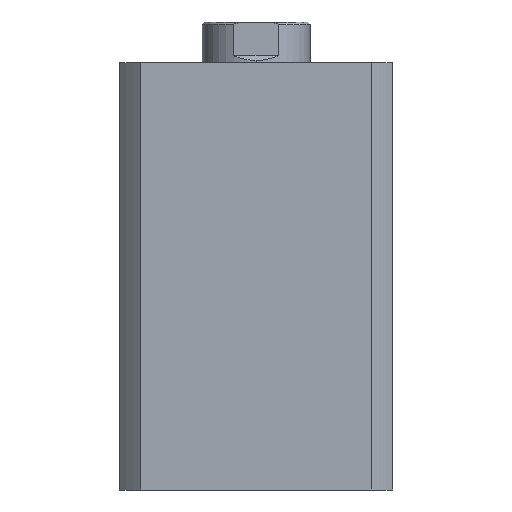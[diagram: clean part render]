
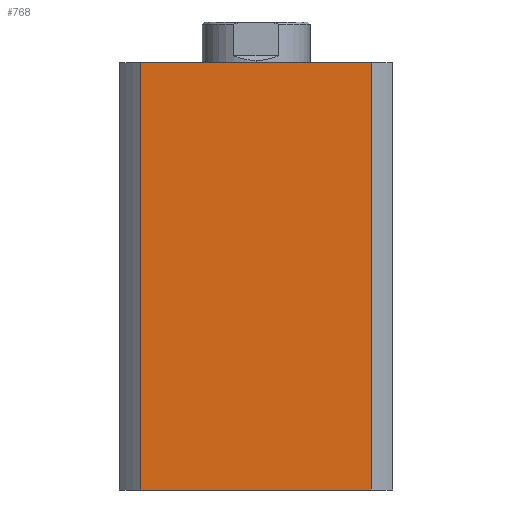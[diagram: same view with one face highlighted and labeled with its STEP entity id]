
A CAD part, left-side view. The second image highlights one B-rep face of the part: STEP entity #768.
In plain terms, the highlighted planar face has unit normal (-1, 0, 0).
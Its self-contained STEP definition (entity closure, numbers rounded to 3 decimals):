
#180 = ORIENTED_EDGE ( 'NONE', *, *, #1105, .T. ) ;
#182 = ORIENTED_EDGE ( 'NONE', *, *, #1095, .F. ) ;
#186 = ORIENTED_EDGE ( 'NONE', *, *, #1092, .T. ) ;
#188 = ORIENTED_EDGE ( 'NONE', *, *, #1097, .F. ) ;
#312 = EDGE_LOOP ( 'NONE', ( #180, #182, #188, #186 ) ) ;
#385 = VERTEX_POINT ( 'NONE', #3578 ) ;
#415 = VERTEX_POINT ( 'NONE', #3544 ) ;
#768 = ADVANCED_FACE ( 'NONE', ( #4925 ), #2836, .F. ) ;
#906 = AXIS2_PLACEMENT_3D ( 'NONE', #2855, #2764, #2763 ) ;
#1092 = EDGE_CURVE ( 'NONE', #4769, #4761, #1228, .T. ) ;
#1095 = EDGE_CURVE ( 'NONE', #385, #415, #1233, .T. ) ;
#1097 = EDGE_CURVE ( 'NONE', #4769, #385, #1237, .T. ) ;
#1105 = EDGE_CURVE ( 'NONE', #4761, #415, #1252, .T. ) ;
#1228 = LINE ( 'NONE', #5033, #1231 ) ;
#1231 = VECTOR ( 'NONE', #5030, 1000. ) ;
#1233 = LINE ( 'NONE', #1856, #1236 ) ;
#1236 = VECTOR ( 'NONE', #1855, 1000. ) ;
#1237 = LINE ( 'NONE', #1852, #1240 ) ;
#1240 = VECTOR ( 'NONE', #1851, 1000. ) ;
#1252 = LINE ( 'NONE', #1848, #1254 ) ;
#1254 = VECTOR ( 'NONE', #1847, 1000. ) ;
#1628 = CARTESIAN_POINT ( 'NONE',  ( -57., 47.971, 178. ) ) ;
#1638 = CARTESIAN_POINT ( 'NONE',  ( -57., 47.971, 0. ) ) ;
#1847 = DIRECTION ( 'NONE',  ( 0., -1., 0. ) ) ;
#1848 = CARTESIAN_POINT ( 'NONE',  ( -57., 0., 0. ) ) ;
#1851 = DIRECTION ( 'NONE',  ( 0., -1., 0. ) ) ;
#1852 = CARTESIAN_POINT ( 'NONE',  ( -57., 0., 178. ) ) ;
#1855 = DIRECTION ( 'NONE',  ( 0., 0., -1. ) ) ;
#1856 = CARTESIAN_POINT ( 'NONE',  ( -57., -47.971, 178. ) ) ;
#2763 = DIRECTION ( 'NONE',  ( 0., 0., -1. ) ) ;
#2764 = DIRECTION ( 'NONE',  ( 1., 0., 0. ) ) ;
#2836 = PLANE ( 'NONE',  #906 ) ;
#2855 = CARTESIAN_POINT ( 'NONE',  ( -57., 0., 178. ) ) ;
#3544 = CARTESIAN_POINT ( 'NONE',  ( -57., -47.971, 0. ) ) ;
#3578 = CARTESIAN_POINT ( 'NONE',  ( -57., -47.971, 178. ) ) ;
#4761 = VERTEX_POINT ( 'NONE', #1638 ) ;
#4769 = VERTEX_POINT ( 'NONE', #1628 ) ;
#4925 = FACE_OUTER_BOUND ( 'NONE', #312, .T. ) ;
#5030 = DIRECTION ( 'NONE',  ( 0., 0., -1. ) ) ;
#5033 = CARTESIAN_POINT ( 'NONE',  ( -57., 47.971, 178. ) ) ;
